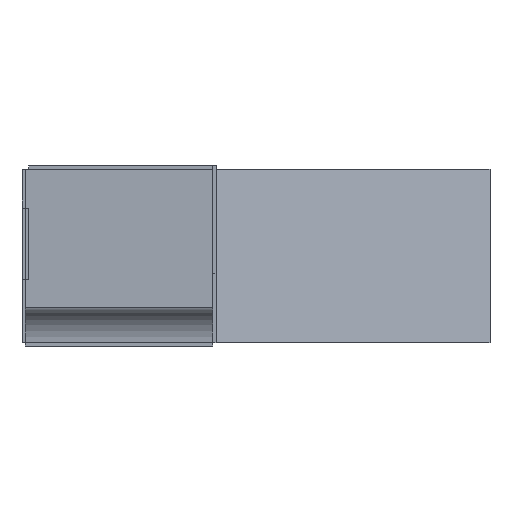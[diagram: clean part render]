
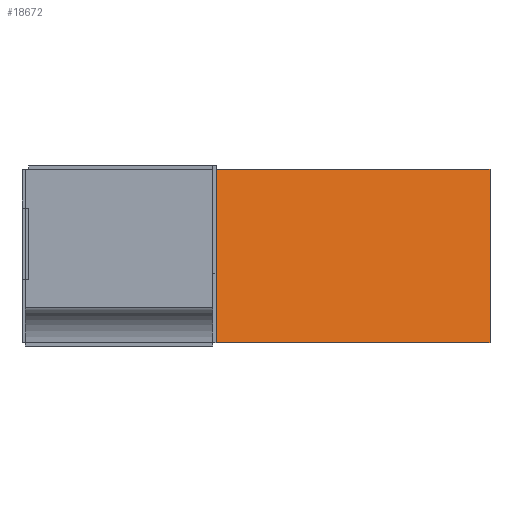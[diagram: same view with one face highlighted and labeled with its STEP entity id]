
A CAD part, left-side view. The second image highlights one B-rep face of the part: STEP entity #18672.
In plain terms, the highlighted planar face has unit normal (-0.955, -0.298, 0).
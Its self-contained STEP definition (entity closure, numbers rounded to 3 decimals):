
#85 = EDGE_CURVE ( 'NONE', #12876, #18550, #13384, .T. ) ;
#99 = CARTESIAN_POINT ( 'NONE',  ( -0.75, -0.675, -0.25 ) ) ;
#714 = AXIS2_PLACEMENT_3D ( 'NONE', #14719, #5647, #10045 ) ;
#1204 = EDGE_CURVE ( 'NONE', #15663, #18550, #16295, .T. ) ;
#1231 = FACE_OUTER_BOUND ( 'NONE', #11785, .T. ) ;
#2830 = LINE ( 'NONE', #10392, #7771 ) ;
#3838 = CARTESIAN_POINT ( 'NONE',  ( -0.75, -0.675, 0.25 ) ) ;
#3932 = LINE ( 'NONE', #3838, #10583 ) ;
#3984 = ORIENTED_EDGE ( 'NONE', *, *, #1204, .T. ) ;
#4005 = ORIENTED_EDGE ( 'NONE', *, *, #85, .F. ) ;
#4556 = CARTESIAN_POINT ( 'NONE',  ( -1., 0.125, 0.25 ) ) ;
#4626 = VECTOR ( 'NONE', #11658, 1000. ) ;
#4892 = ORIENTED_EDGE ( 'NONE', *, *, #14276, .F. ) ;
#5647 = DIRECTION ( 'NONE',  ( -0.954, -0.298, 0. ) ) ;
#6875 = CARTESIAN_POINT ( 'NONE',  ( -0.75, -0.675, -0.25 ) ) ;
#7771 = VECTOR ( 'NONE', #16357, 1000. ) ;
#8200 = VERTEX_POINT ( 'NONE', #11821 ) ;
#9507 = EDGE_CURVE ( 'NONE', #8200, #15663, #2830, .T. ) ;
#10045 = DIRECTION ( 'NONE',  ( 0.298, -0.954, 0. ) ) ;
#10392 = CARTESIAN_POINT ( 'NONE',  ( -0.75, -0.675, 0.25 ) ) ;
#10557 = CARTESIAN_POINT ( 'NONE',  ( -1., 0.125, -0.25 ) ) ;
#10583 = VECTOR ( 'NONE', #18138, 1000. ) ;
#10827 = VECTOR ( 'NONE', #16490, 1000. ) ;
#11658 = DIRECTION ( 'NONE',  ( -0.298, 0.954, 0. ) ) ;
#11780 = CARTESIAN_POINT ( 'NONE',  ( -1., 0.125, 0.25 ) ) ;
#11785 = EDGE_LOOP ( 'NONE', ( #12960, #3984, #4005, #4892 ) ) ;
#11821 = CARTESIAN_POINT ( 'NONE',  ( -0.75, -0.675, 0.25 ) ) ;
#12876 = VERTEX_POINT ( 'NONE', #6875 ) ;
#12960 = ORIENTED_EDGE ( 'NONE', *, *, #9507, .T. ) ;
#13384 = LINE ( 'NONE', #99, #4626 ) ;
#14276 = EDGE_CURVE ( 'NONE', #8200, #12876, #3932, .T. ) ;
#14719 = CARTESIAN_POINT ( 'NONE',  ( -0.911, -0.16, 0. ) ) ;
#15663 = VERTEX_POINT ( 'NONE', #11780 ) ;
#16295 = LINE ( 'NONE', #4556, #10827 ) ;
#16357 = DIRECTION ( 'NONE',  ( -0.298, 0.954, 0. ) ) ;
#16490 = DIRECTION ( 'NONE',  ( 0., 0., -1. ) ) ;
#17479 = PLANE ( 'NONE',  #714 ) ;
#18138 = DIRECTION ( 'NONE',  ( 0., 0., -1. ) ) ;
#18550 = VERTEX_POINT ( 'NONE', #10557 ) ;
#18672 = ADVANCED_FACE ( 'NONE', ( #1231 ), #17479, .T. ) ;
